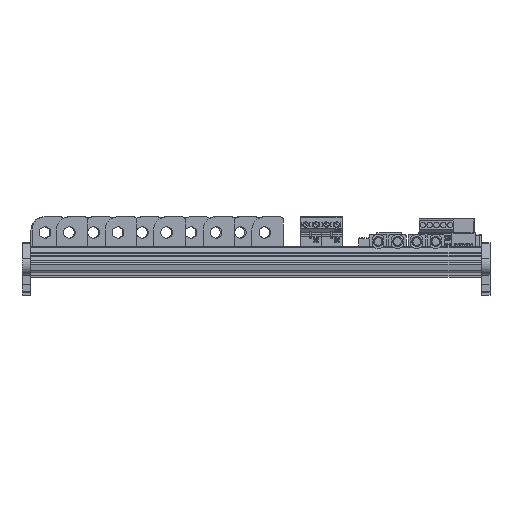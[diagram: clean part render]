
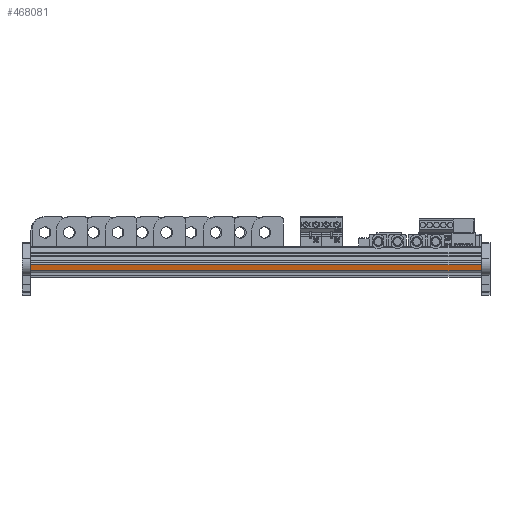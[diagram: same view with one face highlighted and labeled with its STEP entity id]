
A CAD part, front view. The second image highlights one B-rep face of the part: STEP entity #468081.
In plain terms, the highlighted free-form (B-spline) face has degree [1, 1] with [2, 2] control points.
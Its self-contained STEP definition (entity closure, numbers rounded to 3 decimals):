
#458363 = B_SPLINE_SURFACE_WITH_KNOTS('',1,1,(
    (#458364,#458365)
    ,(#458366,#458367
    )),.UNSPECIFIED.,.F.,.F.,.F.,(2,2),(2,2),(-112.497,
    8.897),(-17.3,5.1),.PIECEWISE_BEZIER_KNOTS.);
#458364 = CARTESIAN_POINT('',(60.697,-0.55,170.156));
#458365 = CARTESIAN_POINT('',(60.697,21.85,170.156));
#458366 = CARTESIAN_POINT('',(-60.697,-0.55,170.156));
#458367 = CARTESIAN_POINT('',(-60.697,21.85,170.156));
#458417 = B_SPLINE_SURFACE_WITH_KNOTS('',1,1,(
    (#458418,#458419)
    ,(#458420,#458421
    )),.UNSPECIFIED.,.F.,.F.,.F.,(2,2),(2,2),(-112.497,
    8.897),(-17.3,5.1),.PIECEWISE_BEZIER_KNOTS.);
#458418 = CARTESIAN_POINT('',(60.697,-0.55,-167.434));
#458419 = CARTESIAN_POINT('',(60.697,21.85,-167.434));
#458420 = CARTESIAN_POINT('',(-60.697,-0.55,-167.434));
#458421 = CARTESIAN_POINT('',(-60.697,21.85,-167.434));
#461024 = VERTEX_POINT('',#461025);
#461025 = CARTESIAN_POINT('',(60.67,8.779,-167.434)
  );
#461050 = ( BOUNDED_SURFACE() B_SPLINE_SURFACE(2,1,(
    (#461051,#461052)
    ,(#461053,#461054)
    ,(#461055,#461056
)),.UNSPECIFIED.,.F.,.F.,.F.) B_SPLINE_SURFACE_WITH_KNOTS((3,3),(2,2),(
    1.571,3.336),(-2.,60.),.PIECEWISE_BEZIER_KNOTS.) 
GEOMETRIC_REPRESENTATION_ITEM() RATIONAL_B_SPLINE_SURFACE((
    (1.,1.)
    ,(0.635,0.635)
,(1.,1.))) REPRESENTATION_ITEM('') SURFACE() );
#461051 = CARTESIAN_POINT('',(59.297,10.45,170.156));
#461052 = CARTESIAN_POINT('',(59.297,10.45,-167.434));
#461053 = CARTESIAN_POINT('',(61.,10.45,170.156));
#461054 = CARTESIAN_POINT('',(61.,10.45,-167.434));
#461055 = CARTESIAN_POINT('',(60.67,8.779,170.156));
#461056 = CARTESIAN_POINT('',(60.67,8.779,-167.434)
  );
#461064 = EDGE_CURVE('',#461065,#461024,#461067,.T.);
#461065 = VERTEX_POINT('',#461066);
#461066 = CARTESIAN_POINT('',(59.818,4.463,-167.434)
  );
#461067 = SURFACE_CURVE('',#461068,(#461071,#461078),.PCURVE_S1.);
#461068 = B_SPLINE_CURVE_WITH_KNOTS('',1,(#461069,#461070),
  .UNSPECIFIED.,.F.,.F.,(2,2),(-6.103,-1.703),
  .PIECEWISE_BEZIER_KNOTS.);
#461069 = CARTESIAN_POINT('',(59.818,4.463,-167.434)
  );
#461070 = CARTESIAN_POINT('',(60.67,8.779,-167.434)
  );
#461071 = PCURVE('',#458417,#461072);
#461072 = DEFINITIONAL_REPRESENTATION('',(#461073),#461077);
#461073 = B_SPLINE_CURVE_WITH_KNOTS('',2,(#461074,#461075,#461076),
  .UNSPECIFIED.,.F.,.F.,(3,3),(-6.103,-1.703),
  .PIECEWISE_BEZIER_KNOTS.);
#461074 = CARTESIAN_POINT('',(-111.618,-12.287));
#461075 = CARTESIAN_POINT('',(-112.044,-10.129));
#461076 = CARTESIAN_POINT('',(-112.47,-7.971));
#461077 = ( GEOMETRIC_REPRESENTATION_CONTEXT(2) 
PARAMETRIC_REPRESENTATION_CONTEXT() REPRESENTATION_CONTEXT('2D SPACE',''
  ) );
#461078 = PCURVE('',#461079,#461084);
#461079 = B_SPLINE_SURFACE_WITH_KNOTS('',1,1,(
    (#461080,#461081)
    ,(#461082,#461083
    )),.UNSPECIFIED.,.F.,.F.,.F.,(2,2),(2,2),(-6.103,
    -1.703),(-2.,60.),.PIECEWISE_BEZIER_KNOTS.);
#461080 = CARTESIAN_POINT('',(59.818,4.463,170.156)
  );
#461081 = CARTESIAN_POINT('',(59.818,4.463,-167.434)
  );
#461082 = CARTESIAN_POINT('',(60.67,8.779,170.156));
#461083 = CARTESIAN_POINT('',(60.67,8.779,-167.434)
  );
#461084 = DEFINITIONAL_REPRESENTATION('',(#461085),#461089);
#461085 = B_SPLINE_CURVE_WITH_KNOTS('',2,(#461086,#461087,#461088),
  .UNSPECIFIED.,.F.,.F.,(3,3),(-6.103,-1.703),
  .PIECEWISE_BEZIER_KNOTS.);
#461086 = CARTESIAN_POINT('',(-6.103,60.));
#461087 = CARTESIAN_POINT('',(-3.903,60.));
#461088 = CARTESIAN_POINT('',(-1.703,60.));
#461089 = ( GEOMETRIC_REPRESENTATION_CONTEXT(2) 
PARAMETRIC_REPRESENTATION_CONTEXT() REPRESENTATION_CONTEXT('2D SPACE',''
  ) );
#461117 = ( BOUNDED_SURFACE() B_SPLINE_SURFACE(2,1,(
    (#461118,#461119)
    ,(#461120,#461121)
    ,(#461122,#461123
)),.UNSPECIFIED.,.F.,.F.,.F.) B_SPLINE_SURFACE_WITH_KNOTS((3,3),(2,2),(
    3.336,4.712),(-2.,60.),.PIECEWISE_BEZIER_KNOTS.) 
GEOMETRIC_REPRESENTATION_ITEM() RATIONAL_B_SPLINE_SURFACE((
    (1.,1.)
    ,(0.773,0.773)
,(1.,1.))) REPRESENTATION_ITEM('') SURFACE() );
#461118 = CARTESIAN_POINT('',(59.818,4.463,170.156)
  );
#461119 = CARTESIAN_POINT('',(59.818,4.463,-167.434)
  );
#461120 = CARTESIAN_POINT('',(59.5,2.85,170.156));
#461121 = CARTESIAN_POINT('',(59.5,2.85,-167.434));
#461122 = CARTESIAN_POINT('',(57.856,2.85,170.156));
#461123 = CARTESIAN_POINT('',(57.856,2.85,-167.434));
#463033 = VERTEX_POINT('',#463034);
#463034 = CARTESIAN_POINT('',(59.818,4.463,170.156)
  );
#463065 = EDGE_CURVE('',#463033,#463066,#463068,.T.);
#463066 = VERTEX_POINT('',#463067);
#463067 = CARTESIAN_POINT('',(60.67,8.779,170.156));
#463068 = SURFACE_CURVE('',#463069,(#463072,#463079),.PCURVE_S1.);
#463069 = B_SPLINE_CURVE_WITH_KNOTS('',1,(#463070,#463071),
  .UNSPECIFIED.,.F.,.F.,(2,2),(-6.103,-1.703),
  .PIECEWISE_BEZIER_KNOTS.);
#463070 = CARTESIAN_POINT('',(59.818,4.463,170.156)
  );
#463071 = CARTESIAN_POINT('',(60.67,8.779,170.156));
#463072 = PCURVE('',#458363,#463073);
#463073 = DEFINITIONAL_REPRESENTATION('',(#463074),#463078);
#463074 = B_SPLINE_CURVE_WITH_KNOTS('',2,(#463075,#463076,#463077),
  .UNSPECIFIED.,.F.,.F.,(3,3),(-6.103,-1.703),
  .PIECEWISE_BEZIER_KNOTS.);
#463075 = CARTESIAN_POINT('',(-111.618,-12.287));
#463076 = CARTESIAN_POINT('',(-112.044,-10.129));
#463077 = CARTESIAN_POINT('',(-112.47,-7.971));
#463078 = ( GEOMETRIC_REPRESENTATION_CONTEXT(2) 
PARAMETRIC_REPRESENTATION_CONTEXT() REPRESENTATION_CONTEXT('2D SPACE',''
  ) );
#463079 = PCURVE('',#461079,#463080);
#463080 = DEFINITIONAL_REPRESENTATION('',(#463081),#463085);
#463081 = B_SPLINE_CURVE_WITH_KNOTS('',2,(#463082,#463083,#463084),
  .UNSPECIFIED.,.F.,.F.,(3,3),(-6.103,-1.703),
  .PIECEWISE_BEZIER_KNOTS.);
#463082 = CARTESIAN_POINT('',(-6.103,-2.));
#463083 = CARTESIAN_POINT('',(-3.903,-2.));
#463084 = CARTESIAN_POINT('',(-1.703,-2.));
#463085 = ( GEOMETRIC_REPRESENTATION_CONTEXT(2) 
PARAMETRIC_REPRESENTATION_CONTEXT() REPRESENTATION_CONTEXT('2D SPACE',''
  ) );
#466150 = EDGE_CURVE('',#461065,#463033,#466151,.T.);
#466151 = SURFACE_CURVE('',#466152,(#466155,#466162),.PCURVE_S1.);
#466152 = B_SPLINE_CURVE_WITH_KNOTS('',1,(#466153,#466154),
  .UNSPECIFIED.,.F.,.F.,(2,2),(-60.,2.),.PIECEWISE_BEZIER_KNOTS.);
#466153 = CARTESIAN_POINT('',(59.818,4.463,-167.434)
  );
#466154 = CARTESIAN_POINT('',(59.818,4.463,170.156)
  );
#466155 = PCURVE('',#461117,#466156);
#466156 = DEFINITIONAL_REPRESENTATION('',(#466157),#466161);
#466157 = B_SPLINE_CURVE_WITH_KNOTS('',2,(#466158,#466159,#466160),
  .UNSPECIFIED.,.F.,.F.,(3,3),(-60.,2.),.PIECEWISE_BEZIER_KNOTS.);
#466158 = CARTESIAN_POINT('',(3.336,60.));
#466159 = CARTESIAN_POINT('',(3.336,29.));
#466160 = CARTESIAN_POINT('',(3.336,-2.));
#466161 = ( GEOMETRIC_REPRESENTATION_CONTEXT(2) 
PARAMETRIC_REPRESENTATION_CONTEXT() REPRESENTATION_CONTEXT('2D SPACE',''
  ) );
#466162 = PCURVE('',#461079,#466163);
#466163 = DEFINITIONAL_REPRESENTATION('',(#466164),#466168);
#466164 = B_SPLINE_CURVE_WITH_KNOTS('',2,(#466165,#466166,#466167),
  .UNSPECIFIED.,.F.,.F.,(3,3),(-60.,2.),.PIECEWISE_BEZIER_KNOTS.);
#466165 = CARTESIAN_POINT('',(-6.103,60.));
#466166 = CARTESIAN_POINT('',(-6.103,29.));
#466167 = CARTESIAN_POINT('',(-6.103,-2.));
#466168 = ( GEOMETRIC_REPRESENTATION_CONTEXT(2) 
PARAMETRIC_REPRESENTATION_CONTEXT() REPRESENTATION_CONTEXT('2D SPACE',''
  ) );
#466223 = EDGE_CURVE('',#461024,#463066,#466224,.T.);
#466224 = SURFACE_CURVE('',#466225,(#466228,#466235),.PCURVE_S1.);
#466225 = B_SPLINE_CURVE_WITH_KNOTS('',1,(#466226,#466227),
  .UNSPECIFIED.,.F.,.F.,(2,2),(-60.,2.),.PIECEWISE_BEZIER_KNOTS.);
#466226 = CARTESIAN_POINT('',(60.67,8.779,-167.434)
  );
#466227 = CARTESIAN_POINT('',(60.67,8.779,170.156));
#466228 = PCURVE('',#461050,#466229);
#466229 = DEFINITIONAL_REPRESENTATION('',(#466230),#466234);
#466230 = B_SPLINE_CURVE_WITH_KNOTS('',2,(#466231,#466232,#466233),
  .UNSPECIFIED.,.F.,.F.,(3,3),(-60.,2.),.PIECEWISE_BEZIER_KNOTS.);
#466231 = CARTESIAN_POINT('',(3.336,60.));
#466232 = CARTESIAN_POINT('',(3.336,29.));
#466233 = CARTESIAN_POINT('',(3.336,-2.));
#466234 = ( GEOMETRIC_REPRESENTATION_CONTEXT(2) 
PARAMETRIC_REPRESENTATION_CONTEXT() REPRESENTATION_CONTEXT('2D SPACE',''
  ) );
#466235 = PCURVE('',#461079,#466236);
#466236 = DEFINITIONAL_REPRESENTATION('',(#466237),#466241);
#466237 = B_SPLINE_CURVE_WITH_KNOTS('',2,(#466238,#466239,#466240),
  .UNSPECIFIED.,.F.,.F.,(3,3),(-60.,2.),.PIECEWISE_BEZIER_KNOTS.);
#466238 = CARTESIAN_POINT('',(-1.703,60.));
#466239 = CARTESIAN_POINT('',(-1.703,29.));
#466240 = CARTESIAN_POINT('',(-1.703,-2.));
#466241 = ( GEOMETRIC_REPRESENTATION_CONTEXT(2) 
PARAMETRIC_REPRESENTATION_CONTEXT() REPRESENTATION_CONTEXT('2D SPACE',''
  ) );
#468081 = ADVANCED_FACE('',(#468082),#461079,.F.);
#468082 = FACE_BOUND('',#468083,.T.);
#468083 = EDGE_LOOP('',(#468084,#468085,#468086,#468087));
#468084 = ORIENTED_EDGE('',*,*,#463065,.F.);
#468085 = ORIENTED_EDGE('',*,*,#466150,.F.);
#468086 = ORIENTED_EDGE('',*,*,#461064,.T.);
#468087 = ORIENTED_EDGE('',*,*,#466223,.T.);
